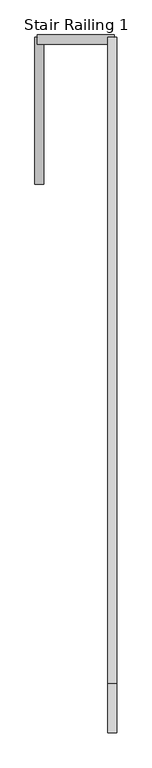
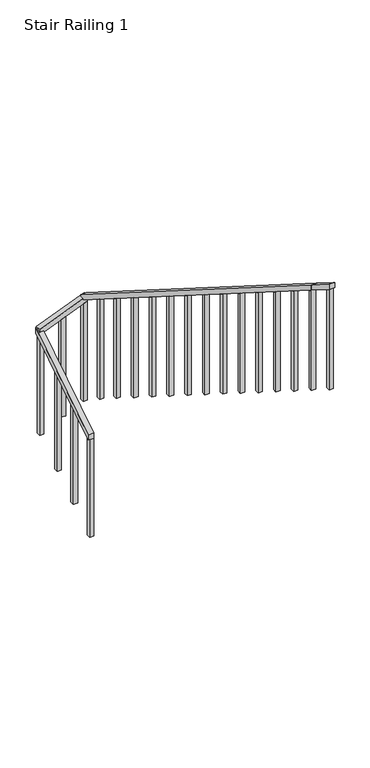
"""IFC4 building model written with IfcOpenShell, lengths in millimetres: railing geometry, Stair Railing 1."""

from ifc_helpers import new_model, si_unit, frame, origin, place, context, project, spatial, polyline, outline, extrude, source, transform, mapped, element, save


def stair_railing_1_f50879bb(model_context):
    return source(origin(), model_context, "Body", "SweptSolid", [
        extrude(outline(polyline([(55823.086508, 1696.4526316), (55823.086508, 1645.6526316), (54998.086508, 1116.2631579), (54998.086508, 1167.0631579), (55823.086508, 1696.4526316)])), frame((-5337.0838845, 0.0, 0.0), z_axis=(1.0, 0.0, 0.0), x_axis=(0.0, 1.0, 0.0)), (0.0, 0.0, 1.0), 50.8),
        extrude(outline(polyline([(55036.186508, 1140.7113263), (55036.186508, 176.4631579), (54998.086508, 176.4631579), (54998.086508, 1116.2631579), (55036.186508, 1140.7113263)])), frame((-5324.3838845, 0.0, 0.0), z_axis=(1.0, 0.0, 0.0), x_axis=(0.0, 1.0, 0.0)), (0.0, 0.0, 1.0), 38.1),
        extrude(outline(polyline([(55289.936508, 1303.5386947), (55289.936508, 339.2905263), (55251.836508, 339.2905263), (55251.836508, 1279.0905263), (55289.936508, 1303.5386947)])), frame((-5324.3838845, 0.0, 0.0), z_axis=(1.0, 0.0, 0.0), x_axis=(0.0, 1.0, 0.0)), (0.0, 0.0, 1.0), 38.1),
        extrude(outline(polyline([(55543.686508, 1466.3660632), (55543.686508, 502.1178947), (55505.586508, 502.1178947), (55505.586508, 1441.9178947), (55543.686508, 1466.3660632)])), frame((-5324.3838845, 0.0, 0.0), z_axis=(1.0, 0.0, 0.0), x_axis=(0.0, 1.0, 0.0)), (0.0, 0.0, 1.0), 38.1),
        extrude(outline(polyline([(55823.086508, 1645.6526316), (55823.086508, 681.4044632), (55784.986508, 681.4044632), (55784.986508, 1621.2044632), (55823.086508, 1645.6526316)])), frame((-5324.3838845, 0.0, 0.0), z_axis=(1.0, 0.0, 0.0), x_axis=(0.0, 1.0, 0.0)), (0.0, 0.0, 1.0), 38.1),
        extrude(outline(polyline([(1822.1157895, -4890.5747339), (1872.9157895, -4890.5747339), (1696.4526316, -5324.3838845), (1645.6526316, -5324.3838845), (1822.1157895, -4890.5747339)])), frame((0.0, 55784.986508, 0.0), z_axis=(0.0, 1.0, 0.0), x_axis=(0.0, 0.0, 1.0)), (0.0, 0.0, 1.0), 50.8),
        extrude(outline(polyline([(1726.1351274, -5126.5293092), (786.3351274, -5126.5293092), (786.3351274, -5088.4293092), (1741.6332936, -5088.4293092), (1726.1351274, -5126.5293092)])), frame((0.0, 55784.986508, 0.0), z_axis=(0.0, 1.0, 0.0), x_axis=(0.0, 0.0, 1.0)), (0.0, 0.0, 1.0), 38.1),
        extrude(outline(polyline([(1806.6176233, -4928.6747339), (866.8176233, -4928.6747339), (866.8176233, -4890.5747339), (1822.1157895, -4890.5747339), (1806.6176233, -4928.6747339)])), frame((0.0, 55784.986508, 0.0), z_axis=(0.0, 1.0, 0.0), x_axis=(0.0, 0.0, 1.0)), (0.0, 0.0, 1.0), 38.1),
        extrude(outline(polyline([(52190.886508, 4116.1368421), (52190.886508, 4166.9368421), (55823.086508, 1872.9157895), (55823.086508, 1822.1157895), (52190.886508, 4116.1368421)])), frame((-4928.6747339, 0.0, 0.0), z_axis=(1.0, 0.0, 0.0), x_axis=(0.0, 1.0, 0.0)), (0.0, 0.0, 1.0), 50.8),
        extrude(outline(polyline([(55562.736508, 1986.5473684), (55562.736508, 1046.7473684), (55524.636508, 1046.7473684), (55524.636508, 2010.6105263), (55562.736508, 1986.5473684)])), frame((-4928.6747339, 0.0, 0.0), z_axis=(1.0, 0.0, 0.0), x_axis=(0.0, 1.0, 0.0)), (0.0, 0.0, 1.0), 38.1),
        extrude(outline(polyline([(55302.386508, 2150.9789474), (55302.386508, 1211.1789474), (55264.286508, 1211.1789474), (55264.286508, 2175.0421053), (55302.386508, 2150.9789474)])), frame((-4928.6747339, 0.0, 0.0), z_axis=(1.0, 0.0, 0.0), x_axis=(0.0, 1.0, 0.0)), (0.0, 0.0, 1.0), 38.1),
        extrude(outline(polyline([(55022.986508, 2327.4421053), (55022.986508, 1387.6421053), (54984.886508, 1387.6421053), (54984.886508, 2351.5052632), (55022.986508, 2327.4421053)])), frame((-4928.6747339, 0.0, 0.0), z_axis=(1.0, 0.0, 0.0), x_axis=(0.0, 1.0, 0.0)), (0.0, 0.0, 1.0), 38.1),
        extrude(outline(polyline([(54743.586508, 2503.9052632), (54743.586508, 1564.1052632), (54705.486508, 1564.1052632), (54705.486508, 2527.9684211), (54743.586508, 2503.9052632)])), frame((-4928.6747339, 0.0, 0.0), z_axis=(1.0, 0.0, 0.0), x_axis=(0.0, 1.0, 0.0)), (0.0, 0.0, 1.0), 38.1),
        extrude(outline(polyline([(54464.186508, 2680.3684211), (54464.186508, 1740.5684211), (54426.086508, 1740.5684211), (54426.086508, 2704.4315789), (54464.186508, 2680.3684211)])), frame((-4928.6747339, 0.0, 0.0), z_axis=(1.0, 0.0, 0.0), x_axis=(0.0, 1.0, 0.0)), (0.0, 0.0, 1.0), 38.1),
        extrude(outline(polyline([(54184.786508, 2856.8315789), (54184.786508, 1917.0315789), (54146.686508, 1917.0315789), (54146.686508, 2880.8947368), (54184.786508, 2856.8315789)])), frame((-4928.6747339, 0.0, 0.0), z_axis=(1.0, 0.0, 0.0), x_axis=(0.0, 1.0, 0.0)), (0.0, 0.0, 1.0), 38.1),
        extrude(outline(polyline([(53905.386508, 3033.2947368), (53905.386508, 2093.4947368), (53867.286508, 2093.4947368), (53867.286508, 3057.3578947), (53905.386508, 3033.2947368)])), frame((-4928.6747339, 0.0, 0.0), z_axis=(1.0, 0.0, 0.0), x_axis=(0.0, 1.0, 0.0)), (0.0, 0.0, 1.0), 38.1),
        extrude(outline(polyline([(53625.986508, 3209.7578947), (53625.986508, 2269.9578947), (53587.886508, 2269.9578947), (53587.886508, 3233.8210526), (53625.986508, 3209.7578947)])), frame((-4928.6747339, 0.0, 0.0), z_axis=(1.0, 0.0, 0.0), x_axis=(0.0, 1.0, 0.0)), (0.0, 0.0, 1.0), 38.1),
        extrude(outline(polyline([(53346.586508, 3386.2210526), (53346.586508, 2446.4210526), (53308.486508, 2446.4210526), (53308.486508, 3410.2842105), (53346.586508, 3386.2210526)])), frame((-4928.6747339, 0.0, 0.0), z_axis=(1.0, 0.0, 0.0), x_axis=(0.0, 1.0, 0.0)), (0.0, 0.0, 1.0), 38.1),
        extrude(outline(polyline([(53067.186508, 3562.6842105), (53067.186508, 2622.8842105), (53029.086508, 2622.8842105), (53029.086508, 3586.7473684), (53067.186508, 3562.6842105)])), frame((-4928.6747339, 0.0, 0.0), z_axis=(1.0, 0.0, 0.0), x_axis=(0.0, 1.0, 0.0)), (0.0, 0.0, 1.0), 38.1),
        extrude(outline(polyline([(52787.786508, 3739.1473684), (52787.786508, 2799.3473684), (52749.686508, 2799.3473684), (52749.686508, 3763.2105263), (52787.786508, 3739.1473684)])), frame((-4928.6747339, 0.0, 0.0), z_axis=(1.0, 0.0, 0.0), x_axis=(0.0, 1.0, 0.0)), (0.0, 0.0, 1.0), 38.1),
        extrude(outline(polyline([(52508.386508, 3915.6105263), (52508.386508, 2975.8105263), (52470.286508, 2975.8105263), (52470.286508, 3939.6736842), (52508.386508, 3915.6105263)])), frame((-4928.6747339, 0.0, 0.0), z_axis=(1.0, 0.0, 0.0), x_axis=(0.0, 1.0, 0.0)), (0.0, 0.0, 1.0), 38.1),
        extrude(outline(polyline([(52228.986508, 4092.0736842), (52228.986508, 3152.2736842), (52190.886508, 3152.2736842), (52190.886508, 4116.1368421), (52228.986508, 4092.0736842)])), frame((-4928.6747339, 0.0, 0.0), z_axis=(1.0, 0.0, 0.0), x_axis=(0.0, 1.0, 0.0)), (0.0, 0.0, 1.0), 38.1),
        extrude(outline(polyline([(51911.486508, 4292.6), (51911.486508, 4343.4), (52190.886508, 4166.9368421), (52190.886508, 4116.1368421), (51911.486508, 4292.6)])), frame((-4928.6747339, 0.0, 0.0), z_axis=(1.0, 0.0, 0.0), x_axis=(0.0, 1.0, 0.0)), (0.0, 0.0, 1.0), 50.8),
        extrude(outline(polyline([(51949.586508, 4268.5368421), (51949.586508, 3328.7368421), (51911.486508, 3328.7368421), (51911.486508, 4292.6), (51949.586508, 4268.5368421)])), frame((-4928.6747339, 0.0, 0.0), z_axis=(1.0, 0.0, 0.0), x_axis=(0.0, 1.0, 0.0)), (0.0, 0.0, 1.0), 38.1),
    ])


if __name__ == "__main__":
    model = new_model("IFC4")
    model_context = context("Model", 3, world=origin())
    ifc_project = project(units=[si_unit("LENGTHUNIT", "METRE", prefix="MILLI")], contexts=[model_context])
    site = spatial("IfcSite", under=ifc_project)
    building = spatial("IfcBuilding", under=site)
    placement = place(None, origin())
    stair_railing_1_shape = stair_railing_1_f50879bb(model_context)
    element("IfcRailing", 1, ObjectType="Stair Railing 1", at=placement, inside=building, context=model_context, shape_type="MappedRepresentation", body=[
        mapped(stair_railing_1_shape, transform((0.0, 0.0, 0.0), x_axis=(1.0, 0.0, 0.0), y_axis=(0.0, 1.0, 0.0), z_axis=(0.0, 0.0, 1.0))),
    ])
    save(model, "model.ifc")
